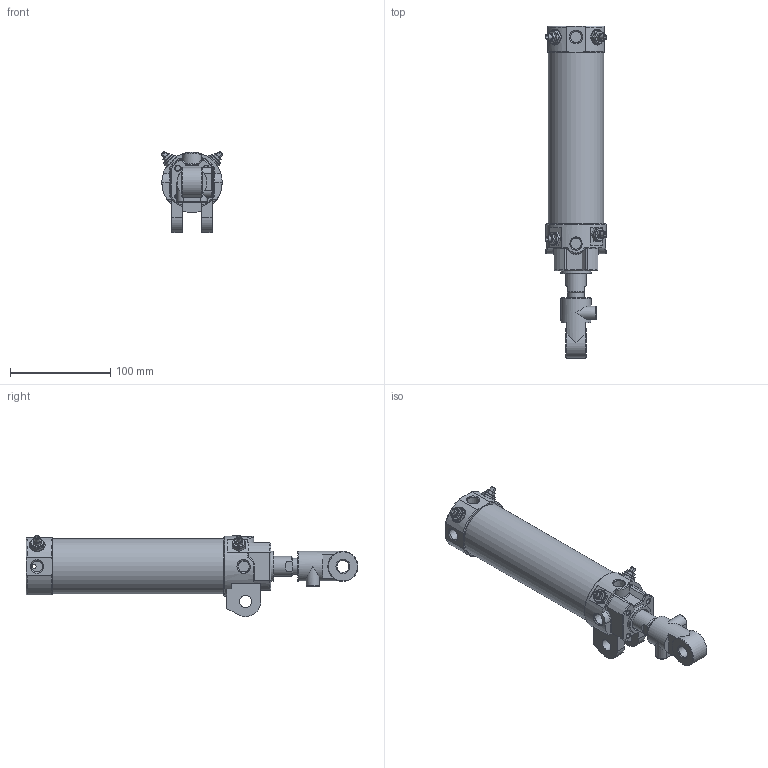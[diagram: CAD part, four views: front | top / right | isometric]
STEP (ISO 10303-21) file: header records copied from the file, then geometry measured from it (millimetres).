
FILE_DESCRIPTION((''),'2;1');
FILE_NAME('I:\3D電子目錄\氣缸\DCK\DCK\DCK-1B-50x125-I.stp','2008-02-26T14:28:47',('Administrator'),(''),'Autodesk Inventor 11','Autodesk Inventor 11','');
FILE_SCHEMA(('AUTOMOTIVE_DESIGN { 1 0 10303 214 1 1 1 1 }'));
Length unit declared in the file: millimetre
Products named in the file (6): DCK-1B-50-I; 緩衝針; 緩衝針-1; 緩衝針-201; 緩衝針-3
Assembly tree (8 placements, depth 3):
  DCK-1B-50-I
    DCK-1B-50-I
    緩衝針  x4
      緩衝針-1
      緩衝針-201
      緩衝針-3
Bounding box: 61.76 x 331 x 80.87 mm (x, y, z)
Volume: 282154 mm3; surface area: 126440.9 mm2
Topology: 16 solids, 16 shells, 617 faces, 1375 edges, 859 vertices
Faces by surface type: plane 227, cylinder 180, cone 141, torus 35, bspline 34
Full cylindrical faces by diameter (mm): 2 x2, 3 x4, 3.8 x2, 4 x6, 4.6 x4, 5 x8, 5.1 x4, 5.2 x12, 5.5 x4, 7.25 x1, 7.9 x4, 8 x2, 10.3 x1, 11.3 x1, 12 x5, 12.8 x4, 16 x3, 20 x1, 21 x1, 22 x2, 23 x1, 24.7 x1, 26 x1, 27 x1, 28 x1, 29 x1, 30 x3, 33 x1, 49.5 x1, 52 x2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
Entity records: 12811 total; most frequent: CARTESIAN_POINT 5086, DIRECTION 1580, ORIENTED_EDGE 1388, EDGE_CURVE 694, AXIS2_PLACEMENT_3D 690, EDGE_LOOP 570, VERTEX_POINT 506, FACE_OUTER_BOUND 368
